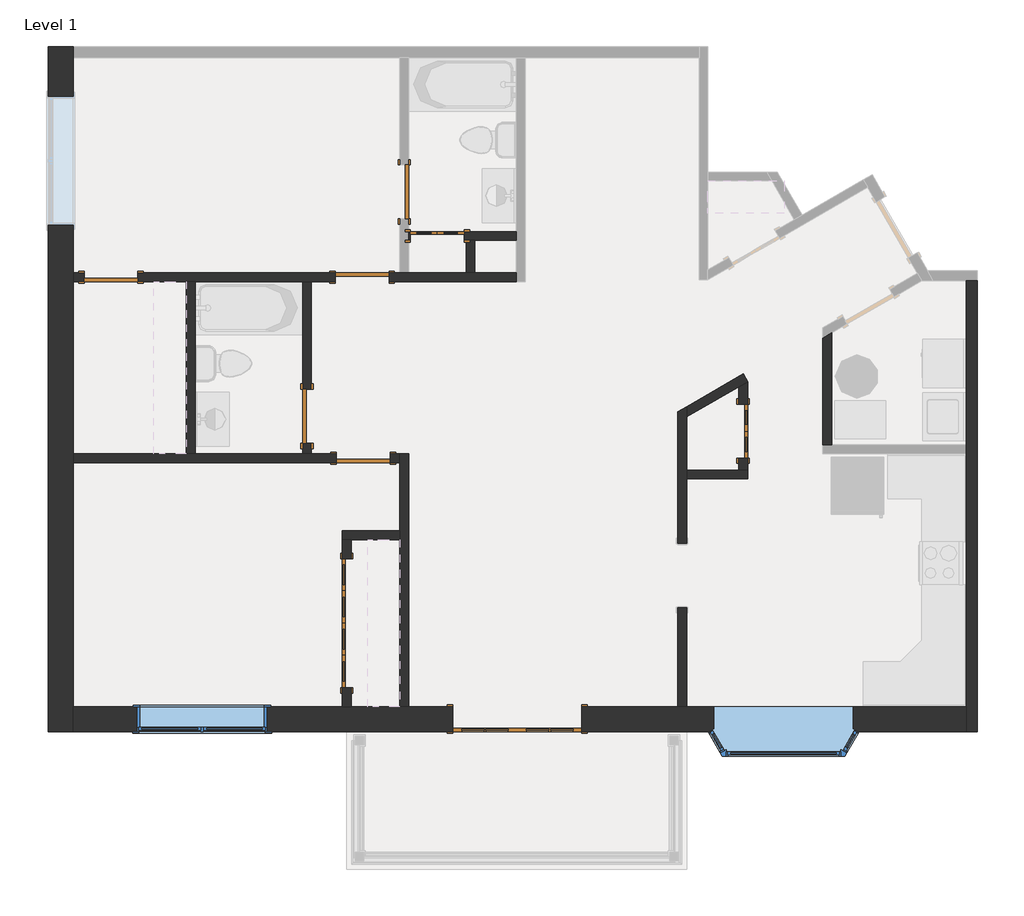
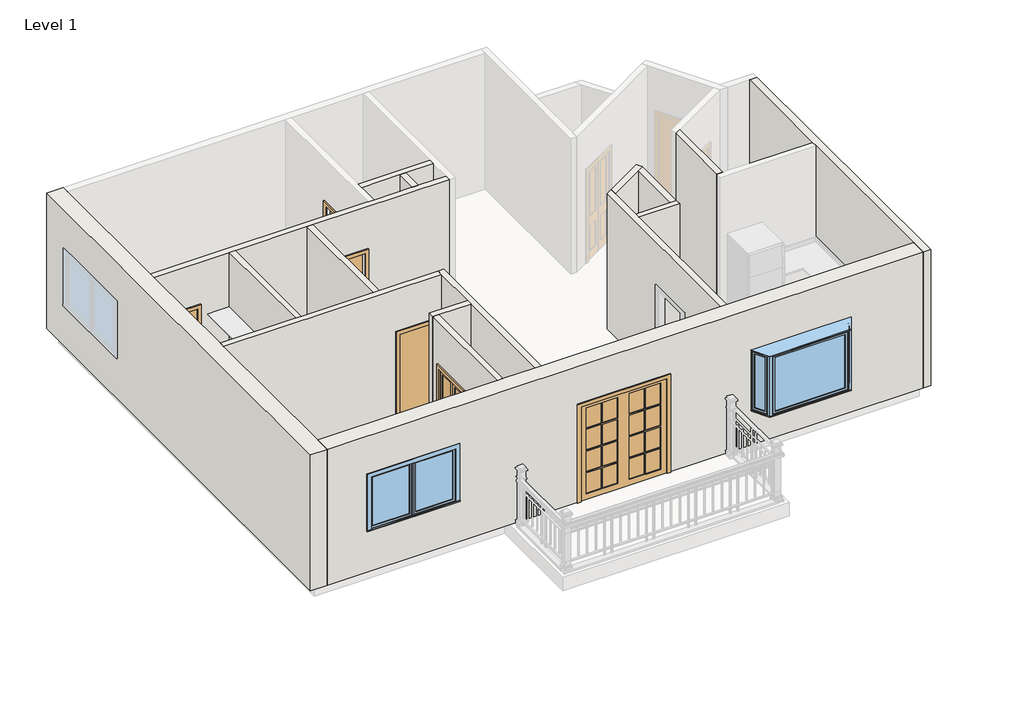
# One storey, part 1 of 2: 17 walls, 9 doors, 2 windows.
"""IFC4 building model written with IfcOpenShell, lengths in millimetres."""

from ifc_helpers import new_model, si_unit, frame, origin, origin_with_axes, place, context, project, spatial, polyline, outline, extrude, faceted_brep, transform, mapped, element, save
from components import door_28b41c19, door_77c9d7c5, door_c95ce901, door_0a477ef8, door_91cbdfe0, door_39079f6b, window_00d0273f, window_565d5888

model = new_model("IFC4")

# Units and contexts
model_context = context("Model", 3, world=origin())
ifc_project = project(units=[si_unit("LENGTHUNIT", "METRE", prefix="MILLI")], contexts=[model_context])

# Site, building, storey
site = spatial("IfcSite", under=ifc_project)
building = spatial("IfcBuilding", under=site)
storey = spatial("IfcBuildingStorey", under=building, Name="Level 1", Elevation=0.0)

# Doors
placement = place(None, origin())
door_shape = door_28b41c19(model_context)
element("IfcDoor", 1, ObjectType="Bifold-2 Panel : 30\" x 80\"", at=placement, inside=storey, context=model_context, shape_type="MappedRepresentation", body=[
    mapped(door_shape, transform((-10106.3500398, -807.7286799, 0.0), x_axis=(-1.0, 0.0, 0.0), y_axis=(0.0, -1.0, 0.0), z_axis=(0.0, 0.0, 1.0))),
])
door_2_shape = door_77c9d7c5(model_context)
element("IfcDoor", 2, ObjectType="Bifold-2 Panel : 30\" x 80\"", at=placement, inside=storey, context=model_context, shape_type="MappedRepresentation", body=[
    mapped(door_2_shape, transform((-5777.2375398, -3569.9786799, 0.0), x_axis=(0.0, -1.0, 0.0), y_axis=(1.0, 0.0, 0.0), z_axis=(0.0, 0.0, 1.0))),
])
door_3_shape = door_c95ce901(model_context)
element("IfcDoor", 3, ObjectType="Bifold-4 Panel : 72\" x 80\"", at=placement, inside=storey, context=model_context, shape_type="MappedRepresentation", body=[
    mapped(door_3_shape, transform((-11387.4625398, -6287.7786799, 0.0), x_axis=(0.0, 1.0, 0.0), y_axis=(-1.0, 0.0, 0.0), z_axis=(0.0, 0.0, 1.0))),
])
door_4_shape = door_0a477ef8(model_context)
element("IfcDoor", 4, ObjectType="Double-Glass 2 : 72\" x 84\"", at=placement, inside=storey, context=model_context, shape_type="MappedRepresentation", body=[
    mapped(door_4_shape, transform((-8972.8750398, -7646.6786799, 0.0), x_axis=(-1.0, 0.0, 0.0), y_axis=(0.0, -1.0, 0.0), z_axis=(0.0, 0.0, 1.0))),
])
door_5_shape = door_91cbdfe0(model_context)
element("IfcDoor", 5, ObjectType="Single-Flush : 30\" x 80\"", at=placement, inside=storey, context=model_context, shape_type="MappedRepresentation", body=[
    mapped(door_5_shape, transform((-11154.1000398, -3954.1536799, 0.0), x_axis=(1.0, 0.0, 0.0), y_axis=(0.0, 1.0, 0.0), z_axis=(0.0, 0.0, 1.0))),
])
element("IfcDoor", 6, ObjectType="Single-Flush : 30\" x 80\"", at=placement, inside=storey, context=model_context, shape_type="MappedRepresentation", body=[
    mapped(door_5_shape, transform((-11949.4375398, -3358.8411799, 0.0), x_axis=(0.0, -1.0, 0.0), y_axis=(1.0, 0.0, 0.0), z_axis=(0.0, 0.0, 1.0))),
])
door_6_shape = door_39079f6b(model_context)
element("IfcDoor", 7, ObjectType="Single-Flush : 30\" x 80\"", at=placement, inside=storey, context=model_context, shape_type="MappedRepresentation", body=[
    mapped(door_6_shape, transform((-11169.9750398, -1391.9286799, 0.0), x_axis=(1.0, 0.0, 0.0), y_axis=(0.0, 1.0, 0.0), z_axis=(0.0, 0.0, 1.0))),
])
element("IfcDoor", 8, ObjectType="Single-Flush : 30\" x 80\"", at=placement, inside=storey, context=model_context, shape_type="MappedRepresentation", body=[
    mapped(door_6_shape, transform((-10574.6625398, -183.8411799, 0.0), x_axis=(0.0, -1.0, 0.0), y_axis=(1.0, 0.0, 0.0), z_axis=(0.0, 0.0, 1.0))),
])
element("IfcDoor", 9, ObjectType="Single-Flush : 30\" x 80\"", at=placement, inside=storey, context=model_context, shape_type="MappedRepresentation", body=[
    mapped(door_6_shape, transform((-14725.9750398, -1391.9286799, 0.0), x_axis=(-1.0, 0.0, 0.0), y_axis=(0.0, -1.0, 0.0), z_axis=(0.0, 0.0, 1.0))),
])

# Walls
element("IfcWall", 10, ObjectType="Exterior - Brick on Mtl. Stud", at=placement, inside=storey, context=model_context, shape_type="Brep", body=[
    faceted_brep([(-15259.3750398, -7822.8911799, 0.0), (-9887.2750398, -7822.8911799, 0.0), (-9887.2750398, -7822.8911799, 2133.6), (-8058.4750398, -7822.8911799, 2133.6), (-8058.4750398, -7822.8911799, 0.0), (-2616.5250398, -7822.8911799, 0.0), (-2616.5250398, -7822.8911799, 3048.0), (-15259.3750398, -7822.8911799, 3048.0), (-6259.7532738, -7822.8911799, 2133.6), (-4151.6375398, -7822.8911799, 2133.6), (-4151.6375398, -7822.8911799, 762.0), (-6259.7532738, -7822.8911799, 762.0), (-14350.5312898, -7822.8911799, 2133.6), (-12521.7312898, -7822.8911799, 2133.6), (-12521.7312898, -7822.8911799, 914.4), (-14350.5312898, -7822.8911799, 914.4), (-9887.2750398, -7470.4661799, 2133.6), (-9887.2750398, -7470.4661799, 0.0), (-10512.7500398, -7470.4661799, 0.0), (-10636.5750398, -7470.4661799, 0.0), (-11325.5500398, -7470.4661799, 0.0), (-11449.3750398, -7470.4661799, 0.0), (-15259.3750398, -7470.4661799, 0.0), (-15259.3750398, -7470.4661799, 3048.0), (-11449.3750398, -7470.4661799, 3048.0), (-11325.5500398, -7470.4661799, 3048.0), (-10636.5750398, -7470.4661799, 3048.0), (-10512.7500398, -7470.4661799, 3048.0), (-6702.7500398, -7470.4661799, 3048.0), (-6578.9250398, -7470.4661799, 3048.0), (-2616.5250398, -7470.4661799, 3048.0), (-2616.5250398, -7470.4661799, 0.0), (-6578.9250398, -7470.4661799, 0.0), (-6702.7500398, -7470.4661799, 0.0), (-8058.4750398, -7470.4661799, 0.0), (-8058.4750398, -7470.4661799, 2133.6), (-4218.9373798, -7470.4661799, 2133.6), (-6192.5376998, -7470.4661799, 2133.6), (-6192.5376998, -7470.4661799, 762.0), (-4218.9373798, -7470.4661799, 762.0), (-14350.5312898, -7470.4661799, 2133.6), (-14350.5312898, -7470.4661799, 914.4), (-12521.7312898, -7470.4661799, 914.4), (-12521.7312898, -7470.4661799, 2133.6), (-4218.9373798, -7783.9404412, 2133.6), (-6192.5376998, -7783.9890922, 2133.6), (-4218.9373798, -7783.9404412, 762.0), (-6192.5376998, -7783.9890922, 762.0)], [[[0, 1, 2, 3, 4, 5, 6, 7], [8, 9, 10, 11], [12, 13, 14, 15]], [[16, 17, 18, 19, 20, 21, 22, 23, 24, 25, 26, 27, 28, 29, 30, 31, 32, 33, 34, 35], [36, 37, 38, 39], [40, 41, 42, 43]], [[22, 21, 20, 19, 18, 17, 1, 0]], [[34, 33, 32, 31, 5, 4]], [[7, 6, 30, 29, 28, 27, 26, 25, 24, 23]], [[0, 7, 23, 22]], [[6, 5, 31, 30]], [[2, 1, 17, 16]], [[3, 2, 16, 35]], [[4, 3, 35, 34]], [[44, 9, 8, 45, 37, 36]], [[46, 39, 38, 47, 11, 10]], [[44, 36, 39, 46]], [[37, 45, 47, 38]], [[45, 8, 11, 47]], [[9, 44, 46, 10]], [[41, 40, 12, 15]], [[42, 41, 15, 14]], [[43, 42, 14, 13]], [[40, 43, 13, 12]]]),
])
element("IfcWall", 11, ObjectType="Exterior - Brick on Mtl. Stud", at=placement, inside=storey, context=model_context, shape_type="Brep", body=[
    faceted_brep([(-15611.8000398, 1873.5588201, 0.0), (-15611.8000398, -7822.8911799, 0.0), (-15611.8000398, -7822.8911799, 3048.0), (-15611.8000398, 1873.5588201, 3048.0), (-15611.8000398, 1170.2963201, 2133.6), (-15611.8000398, -658.5036799, 2133.6), (-15611.8000398, -658.5036799, 914.4), (-15611.8000398, 1170.2963201, 914.4), (-15259.3750398, 1873.5588201, 0.0), (-15259.3750398, 1873.5588201, 3048.0), (-15259.3750398, 1717.9838201, 3048.0), (-15259.3750398, -1330.0161799, 3048.0), (-15259.3750398, -1453.8411799, 3048.0), (-15259.3750398, -3892.2411799, 3048.0), (-15259.3750398, -4016.0661799, 3048.0), (-15259.3750398, -7470.4661799, 3048.0), (-15259.3750398, -7822.8911799, 3048.0), (-15259.3750398, -7822.8911799, 0.0), (-15259.3750398, -7470.4661799, 0.0), (-15259.3750398, -4016.0661799, 0.0), (-15259.3750398, -3892.2411799, 0.0), (-15259.3750398, -1453.8411799, 0.0), (-15259.3750398, -1330.0161799, 0.0), (-15259.3750398, 1717.9838201, 0.0), (-15259.3750398, 1170.2963201, 2133.6), (-15259.3750398, 1170.2963201, 914.4), (-15259.3750398, -658.5036799, 914.4), (-15259.3750398, -658.5036799, 2133.6)], [[[0, 1, 2, 3], [4, 5, 6, 7]], [[8, 9, 10, 11, 12, 13, 14, 15, 16, 17, 18, 19, 20, 21, 22, 23], [24, 25, 26, 27]], [[1, 0, 8, 23, 22, 21, 20, 19, 18, 17]], [[3, 2, 16, 15, 14, 13, 12, 11, 10, 9]], [[0, 3, 9, 8]], [[2, 1, 17, 16]], [[25, 24, 4, 7]], [[26, 25, 7, 6]], [[27, 26, 6, 5]], [[24, 27, 5, 4]]]),
])
element("IfcWall", 12, ObjectType="Interior - 4 7/8\" Partition (1-hr)", at=placement, inside=storey, context=model_context, shape_type="Brep", body=[
    faceted_brep([(-6578.9250398, -7470.4661799, 0.0), (-6578.9250398, -6071.8786799, 0.0), (-6578.9250398, -6071.8786799, 2032.0), (-6578.9250398, -5157.4786799, 2032.0), (-6578.9250398, -5157.4786799, 0.0), (-6578.9250398, -4244.6661799, 0.0), (-6578.9250398, -4120.8411799, 0.0), (-6578.9250398, -3366.8186692, 0.0), (-6578.9250398, -3223.8378751, 0.0), (-6578.9250398, -3223.8378751, 3048.0), (-6578.9250398, -3366.8186692, 3048.0), (-6578.9250398, -4120.8411799, 3048.0), (-6578.9250398, -4244.6661799, 3048.0), (-6578.9250398, -7470.4661799, 3048.0), (-6702.7500398, -6071.8786799, 2032.0), (-6702.7500398, -6071.8786799, 0.0), (-6702.7500398, -7470.4661799, 0.0), (-6702.7500398, -7470.4661799, 3048.0), (-6702.7500398, -3295.3282721, 3048.0), (-6702.7500398, -3295.3282721, 0.0), (-6702.7500398, -5157.4786799, 0.0), (-6702.7500398, -5157.4786799, 2032.0)], [[[0, 1, 2, 3, 4, 5, 6, 7, 8, 9, 10, 11, 12, 13]], [[14, 15, 16, 17, 18, 19, 20, 21]], [[16, 15, 1, 0]], [[20, 19, 8, 7, 6, 5, 4]], [[13, 12, 11, 10, 9, 18, 17]], [[9, 8, 19, 18]], [[0, 13, 17, 16]], [[4, 3, 21, 20]], [[2, 1, 15, 14]], [[3, 2, 14, 21]]]),
])
element("IfcWall", 13, ObjectType="Interior - 4 7/8\" Partition (1-hr)", at=placement, inside=storey, context=model_context, shape_type="Brep", body=[
    faceted_brep([(-10512.7500398, -7470.4661799, 0.0), (-10512.7500398, -3892.2411799, 0.0), (-10512.7500398, -3892.2411799, 3048.0), (-10512.7500398, -7470.4661799, 3048.0), (-10636.5750398, -7470.4661799, 0.0), (-10636.5750398, -7470.4661799, 3048.0), (-10636.5750398, -5105.0911799, 3048.0), (-10636.5750398, -4981.2661799, 3048.0), (-10636.5750398, -4016.0661799, 3048.0), (-10636.5750398, -3892.2411799, 3048.0), (-10636.5750398, -3892.2411799, 0.0), (-10636.5750398, -4016.0661799, 0.0), (-10636.5750398, -4981.2661799, 0.0), (-10636.5750398, -5105.0911799, 0.0)], [[[0, 1, 2, 3]], [[4, 5, 6, 7, 8, 9, 10, 11, 12, 13]], [[1, 0, 4, 13, 12, 11, 10]], [[3, 2, 9, 8, 7, 6, 5]], [[2, 1, 10, 9]], [[0, 3, 5, 4]]]),
])
element("IfcWall", 14, ObjectType="Interior - 4 7/8\" Partition (1-hr)", at=placement, inside=storey, context=model_context, shape_type="Brep", body=[
    faceted_brep([(-10636.5750398, -3892.2411799, 0.0), (-10773.1000398, -3892.2411799, 0.0), (-10773.1000398, -3892.2411799, 2032.0), (-11535.1000398, -3892.2411799, 2032.0), (-11535.1000398, -3892.2411799, 0.0), (-11887.5250398, -3892.2411799, 0.0), (-12011.3500398, -3892.2411799, 0.0), (-13535.3500398, -3892.2411799, 0.0), (-13659.1750398, -3892.2411799, 0.0), (-15259.3750398, -3892.2411799, 0.0), (-15259.3750398, -3892.2411799, 3048.0), (-13659.1750398, -3892.2411799, 3048.0), (-13535.3500398, -3892.2411799, 3048.0), (-12011.3500398, -3892.2411799, 3048.0), (-11887.5250398, -3892.2411799, 3048.0), (-10636.5750398, -3892.2411799, 3048.0), (-10773.1000398, -4016.0661799, 2032.0), (-10773.1000398, -4016.0661799, 0.0), (-10636.5750398, -4016.0661799, 0.0), (-10636.5750398, -4016.0661799, 3048.0), (-15259.3750398, -4016.0661799, 3048.0), (-15259.3750398, -4016.0661799, 0.0), (-11535.1000398, -4016.0661799, 0.0), (-11535.1000398, -4016.0661799, 2032.0)], [[[0, 1, 2, 3, 4, 5, 6, 7, 8, 9, 10, 11, 12, 13, 14, 15]], [[16, 17, 18, 19, 20, 21, 22, 23]], [[18, 17, 1, 0]], [[22, 21, 9, 8, 7, 6, 5, 4]], [[15, 14, 13, 12, 11, 10, 20, 19]], [[10, 9, 21, 20]], [[0, 15, 19, 18]], [[2, 1, 17, 16]], [[3, 2, 16, 23]], [[4, 3, 23, 22]]]),
])
element("IfcWall", 15, ObjectType="Interior - 4 7/8\" Partition (1-hr)", at=placement, inside=storey, context=model_context, shape_type="SweptSolid", body=[
    extrude(outline(polyline([(-3739.8411799, 2032.0), (-3739.8411799, 0.0), (-3892.2411799, 0.0), (-3892.2411799, 3048.0), (-1453.8411799, 3048.0), (-1453.8411799, 0.0), (-2977.8411799, 0.0), (-2977.8411799, 2032.0), (-3739.8411799, 2032.0)])), frame((-12011.3500398, 0.0, 0.0), z_axis=(1.0, 0.0, 0.0), x_axis=(0.0, 1.0, 0.0)), (0.0, 0.0, 1.0), 123.825),
])
element("IfcWall", 16, ObjectType="Interior - 4 7/8\" Partition (1-hr)", at=placement, inside=storey, context=model_context, shape_type="Brep", body=[
    faceted_brep([(-10636.5750398, -4981.2661799, 0.0), (-11449.3750398, -4981.2661799, 0.0), (-11449.3750398, -4981.2661799, 3048.0), (-10636.5750398, -4981.2661799, 3048.0), (-10636.5750398, -5105.0911799, 0.0), (-10636.5750398, -5105.0911799, 3048.0), (-11325.5500398, -5105.0911799, 3048.0), (-11449.3750398, -5105.0911799, 3048.0), (-11449.3750398, -5105.0911799, 0.0), (-11325.5500398, -5105.0911799, 0.0)], [[[0, 1, 2, 3]], [[4, 5, 6, 7, 8, 9]], [[1, 0, 4, 9, 8]], [[3, 2, 7, 6, 5]], [[2, 1, 8, 7]], [[0, 3, 5, 4]]]),
])
element("IfcWall", 17, ObjectType="Interior - 4 7/8\" Partition (1-hr)", at=placement, inside=storey, context=model_context, shape_type="SweptSolid", body=[
    extrude(outline(polyline([(-5105.0911799, 0.0), (-5373.3786799, 0.0), (-5373.3786799, 2032.0), (-7202.1786799, 2032.0), (-7202.1786799, 0.0), (-7470.4661799, 0.0), (-7470.4661799, 3048.0), (-5105.0911799, 3048.0), (-5105.0911799, 0.0)])), frame((-11449.3750398, 0.0, 0.0), z_axis=(1.0, 0.0, 0.0), x_axis=(0.0, 1.0, 0.0)), (0.0, 0.0, 1.0), 123.825),
])
element("IfcWall", 18, ObjectType="Interior - 4 7/8\" Partition (1-hr)", at=placement, inside=storey, context=model_context, shape_type="SweptSolid", body=[
    extrude(outline(polyline([(-13535.3500398, -1453.8411799), (-13535.3500398, -3892.2411799), (-13659.1750398, -3892.2411799), (-13659.1750398, -1453.8411799), (-13535.3500398, -1453.8411799)])), origin_with_axes(), (0.0, 0.0, 1.0), 3048.0),
])
element("IfcWall", 19, ObjectType="Interior - 4 7/8\" Partition (1-hr)", at=placement, inside=storey, context=model_context, shape_type="Brep", body=[
    faceted_brep([(-15259.3750398, -1453.8411799, 0.0), (-15106.9750398, -1453.8411799, 0.0), (-15106.9750398, -1453.8411799, 2032.0), (-14344.9750398, -1453.8411799, 2032.0), (-14344.9750398, -1453.8411799, 0.0), (-13659.1750398, -1453.8411799, 0.0), (-13535.3500398, -1453.8411799, 0.0), (-12011.3500398, -1453.8411799, 0.0), (-11887.5250398, -1453.8411799, 0.0), (-11550.9750398, -1453.8411799, 0.0), (-11550.9750398, -1453.8411799, 2032.0), (-10788.9750398, -1453.8411799, 2032.0), (-10788.9750398, -1453.8411799, 0.0), (-8988.7500398, -1453.8411799, 0.0), (-8988.7500398, -1453.8411799, 3048.0), (-11887.5250398, -1453.8411799, 3048.0), (-12011.3500398, -1453.8411799, 3048.0), (-13535.3500398, -1453.8411799, 3048.0), (-13659.1750398, -1453.8411799, 3048.0), (-15259.3750398, -1453.8411799, 3048.0), (-15106.9750398, -1330.0161799, 2032.0), (-15106.9750398, -1330.0161799, 0.0), (-15259.3750398, -1330.0161799, 0.0), (-15259.3750398, -1330.0161799, 3048.0), (-10636.5750398, -1330.0161799, 3048.0), (-10512.7500398, -1330.0161799, 3048.0), (-9699.9500398, -1330.0161799, 3048.0), (-9576.1250398, -1330.0161799, 3048.0), (-8988.7500398, -1330.0161799, 3048.0), (-8988.7500398, -1330.0161799, 0.0), (-9576.1250398, -1330.0161799, 0.0), (-9699.9500398, -1330.0161799, 0.0), (-10512.7500398, -1330.0161799, 0.0), (-10636.5750398, -1330.0161799, 0.0), (-10788.9750398, -1330.0161799, 0.0), (-10788.9750398, -1330.0161799, 2032.0), (-11550.9750398, -1330.0161799, 2032.0), (-11550.9750398, -1330.0161799, 0.0), (-14344.9750398, -1330.0161799, 0.0), (-14344.9750398, -1330.0161799, 2032.0)], [[[0, 1, 2, 3, 4, 5, 6, 7, 8, 9, 10, 11, 12, 13, 14, 15, 16, 17, 18, 19]], [[20, 21, 22, 23, 24, 25, 26, 27, 28, 29, 30, 31, 32, 33, 34, 35, 36, 37, 38, 39]], [[13, 12, 34, 33, 32, 31, 30, 29]], [[22, 21, 1, 0]], [[38, 37, 9, 8, 7, 6, 5, 4]], [[19, 18, 17, 16, 15, 14, 28, 27, 26, 25, 24, 23]], [[14, 13, 29, 28]], [[0, 19, 23, 22]], [[35, 34, 12, 11]], [[36, 35, 11, 10]], [[37, 36, 10, 9]], [[2, 1, 21, 20]], [[3, 2, 20, 39]], [[4, 3, 39, 38]]]),
])
element("IfcWall", 20, ObjectType="Interior - 4 7/8\" Partition (1-hr)", at=placement, inside=storey, context=model_context, shape_type="Brep", body=[
    faceted_brep([(-6578.9250398, -4244.6661799, 0.0), (-5715.3250398, -4244.6661799, 0.0), (-5715.3250398, -4244.6661799, 3048.0), (-6578.9250398, -4244.6661799, 3048.0), (-6578.9250398, -4120.8411799, 0.0), (-6578.9250398, -4120.8411799, 3048.0), (-5839.1500398, -4120.8411799, 3048.0), (-5715.3250398, -4120.8411799, 3048.0), (-5715.3250398, -4120.8411799, 0.0), (-5839.1500398, -4120.8411799, 0.0)], [[[0, 1, 2, 3]], [[4, 5, 6, 7, 8, 9]], [[1, 0, 4, 9, 8]], [[3, 2, 7, 6, 5]], [[2, 1, 8, 7]], [[0, 3, 5, 4]]]),
])
element("IfcWall", 21, ObjectType="Interior - 4 7/8\" Partition (1-hr)", at=placement, inside=storey, context=model_context, shape_type="Brep", body=[
    faceted_brep([(-5715.3250398, -4120.8411799, 0.0), (-5715.3250398, -3950.9786799, 0.0), (-5715.3250398, -3950.9786799, 2032.0), (-5715.3250398, -3188.9786799, 2032.0), (-5715.3250398, -3188.9786799, 0.0), (-5715.3250398, -2868.2189767, 0.0), (-5715.3250398, -2868.2189767, 3048.0), (-5715.3250398, -4120.8411799, 3048.0), (-5839.1500398, -3950.9786799, 2032.0), (-5839.1500398, -3950.9786799, 0.0), (-5839.1500398, -4120.8411799, 0.0), (-5839.1500398, -4120.8411799, 3048.0), (-5839.1500398, -2939.7093738, 3048.0), (-5839.1500398, -2939.7093738, 0.0), (-5839.1500398, -3188.9786799, 0.0), (-5839.1500398, -3188.9786799, 2032.0)], [[[0, 1, 2, 3, 4, 5, 6, 7]], [[8, 9, 10, 11, 12, 13, 14, 15]], [[10, 9, 1, 0]], [[14, 13, 5, 4]], [[7, 6, 12, 11]], [[6, 5, 13, 12]], [[0, 7, 11, 10]], [[2, 1, 9, 8]], [[3, 2, 8, 15]], [[4, 3, 15, 14]]]),
])
element("IfcWall", 22, ObjectType="Interior - 4 7/8\" Partition (1-hr)", at=placement, inside=storey, context=model_context, shape_type="SweptSolid", body=[
    extrude(outline(polyline([(-4524.7000398, -2180.8113125), (-4524.7000398, -3765.2411799), (-4648.5250398, -3765.2411799), (-4648.5250398, -2252.3017096), (-4524.7000398, -2180.8113125)])), origin_with_axes(), (0.0, 0.0, 1.0), 3048.0),
])
element("IfcWall", 23, ObjectType="Interior - 4 7/8\" Partition (1-hr)", at=placement, inside=storey, context=model_context, shape_type="Brep", body=[
    faceted_brep([(-5777.2375398, -2760.9833811, 0.0), (-6578.9250398, -3223.8378751, 0.0), (-6578.9250398, -3223.8378751, 3048.0), (-5777.2375398, -2760.9833811, 3048.0), (-5715.3250398, -2868.2189767, 0.0), (-5715.3250398, -2868.2189767, 3048.0), (-5839.1500398, -2939.7093738, 3048.0), (-6578.9250398, -3366.8186692, 3048.0), (-6578.9250398, -3366.8186692, 0.0), (-5839.1500398, -2939.7093738, 0.0)], [[[0, 1, 2, 3]], [[4, 5, 6, 7, 8, 9]], [[1, 0, 4, 9, 8]], [[3, 2, 7, 6, 5]], [[0, 3, 5, 4]], [[2, 1, 8, 7]]]),
])
element("IfcWall", 24, ObjectType="Interior - 4 7/8\" Partition (1-hr)", at=placement, inside=storey, context=model_context, shape_type="Brep", body=[
    faceted_brep([(-10512.7500398, -745.8161799, 3048.0), (-8988.7500398, -745.8161799, 3048.0), (-8988.7500398, -745.8161799, 0.0), (-9725.3500398, -745.8161799, 0.0), (-9725.3500398, -745.8161799, 2032.0), (-10487.3500398, -745.8161799, 2032.0), (-10487.3500398, -745.8161799, 0.0), (-10512.7500398, -745.8161799, 0.0), (-8988.7500398, -869.6411799, 3048.0), (-9576.1250398, -869.6411799, 3048.0), (-9699.9500398, -869.6411799, 3048.0), (-10512.7500398, -869.6411799, 3048.0), (-10512.7500398, -869.6411799, 0.0), (-10487.3500398, -869.6411799, 0.0), (-10487.3500398, -869.6411799, 2032.0), (-9725.3500398, -869.6411799, 2032.0), (-9725.3500398, -869.6411799, 0.0), (-9699.9500398, -869.6411799, 0.0), (-9576.1250398, -869.6411799, 0.0), (-8988.7500398, -869.6411799, 0.0)], [[[0, 1, 2, 3, 4, 5, 6, 7]], [[8, 9, 10, 11, 12, 13, 14, 15, 16, 17, 18, 19]], [[2, 19, 18, 17, 16, 3]], [[12, 7, 6, 13]], [[1, 0, 11, 10, 9, 8]], [[5, 14, 13, 6]], [[14, 5, 4, 15]], [[15, 4, 3, 16]], [[2, 1, 8, 19]], [[0, 7, 12, 11]]]),
])
element("IfcWall", 25, ObjectType="Interior - 4 7/8\" Partition (1-hr)", at=placement, inside=storey, context=model_context, shape_type="SweptSolid", body=[
    extrude(outline(polyline([(-9699.9500398, -1330.0161799), (-9699.9500398, -869.6411799), (-9576.1250398, -869.6411799), (-9576.1250398, -1330.0161799), (-9699.9500398, -1330.0161799)])), origin_with_axes(), (0.0, 0.0, 1.0), 3048.0),
])
element("IfcWall", 26, ObjectType="Interior - 6 1/8\" Partition (2-hr)", at=placement, inside=storey, context=model_context, shape_type="Brep", body=[
    faceted_brep([(-2616.5250398, -1444.3161799, 0.0), (-2616.5250398, -3765.2411799, 0.0), (-2616.5250398, -3889.0661799, 0.0), (-2616.5250398, -7470.4661799, 0.0), (-2616.5250398, -7822.8911799, 0.0), (-2616.5250398, -7822.8911799, 3048.0), (-2616.5250398, -7470.4661799, 3048.0), (-2616.5250398, -3889.0661799, 3048.0), (-2616.5250398, -3765.2411799, 3048.0), (-2616.5250398, -1444.3161799, 3048.0), (-2460.9500398, -1444.3161799, 0.0), (-2460.9500398, -1444.3161799, 3048.0), (-2460.9500398, -7822.8911799, 3048.0), (-2460.9500398, -7822.8911799, 0.0)], [[[0, 1, 2, 3, 4, 5, 6, 7, 8, 9]], [[10, 11, 12, 13]], [[4, 3, 2, 1, 0, 10, 13]], [[9, 8, 7, 6, 5, 12, 11]], [[5, 4, 13, 12]], [[0, 9, 11, 10]]]),
])

# Windows
window_shape = window_00d0273f(model_context)
element("IfcWindow", 27, ObjectType="Bay-30 Deg : 84\" x 54\"", at=placement, inside=storey, context=model_context, shape_type="MappedRepresentation", body=[
    mapped(window_shape, transform((-5205.7861908, -7646.6786799, 0.0), x_axis=(-1.0, 0.0, 0.0), y_axis=(0.0, -1.0, 0.0), z_axis=(0.0, 0.0, 1.0))),
])
window_2_shape = window_565d5888(model_context)
element("IfcWindow", 28, ObjectType="Casement Dbl with Trim : 72\" x 48\"", at=placement, inside=storey, context=model_context, shape_type="MappedRepresentation", body=[
    mapped(window_2_shape, transform((-13436.1312898, -7627.6286799, -304.8), x_axis=(-1.0, 0.0, 0.0), y_axis=(0.0, -1.0, 0.0), z_axis=(0.0, 0.0, 1.0))),
])

save(model, "model.ifc")
